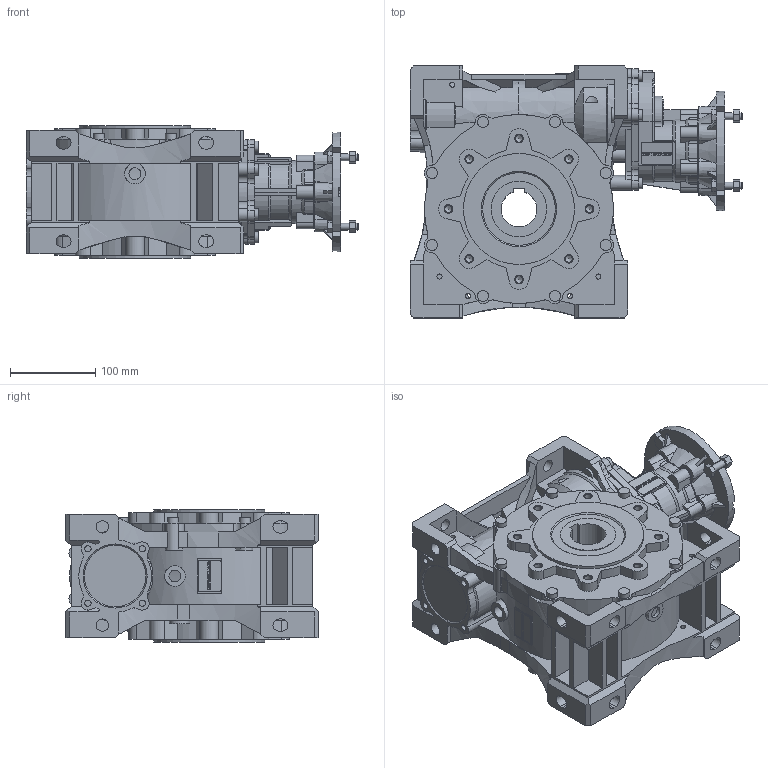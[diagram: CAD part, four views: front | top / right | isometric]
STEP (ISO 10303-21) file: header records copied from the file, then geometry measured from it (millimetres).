
FILE_DESCRIPTION(/* description */ ('STEP AP214'),/* implementation_level */ '2;1');
FILE_NAME(/* name */ 'NMRVP_HW 040-110 186.32 (3.11x60) 140x24 42 NO NO - - NO - - - NO NO - --(--------)',/* time_stamp */ '2024-10-09T12:25:58+02:00',/* author */ ('License CC BY-ND 4.0'),/* organization */ ('CADENAS'),/* preprocessor_version */ 'ST-DEVELOPER v19.3',/* originating_system */ 'PARTsolutions',/* authorisation */ ' ');
FILE_SCHEMA (('AUTOMOTIVE_DESIGN {1 0 10303 214 3 1 1}'));
Length unit declared in the file: millimetre
Products named in the file (8): NMRVP/HW 040-110 186.32 (3.11x60) 140x24 42 NO NO - - NO - - - NO NO 
- --(--------); W.110.01.M; 110-42 (155); W.110.14.19.M-phw; 110-65; HW40; 6390 B14; PC.040.27.24.M
Assembly tree (7 placements, depth 2):
  NMRVP/HW 040-110 186.32 (3.11x60) 140x24 42 NO NO - - NO - - - NO NO 
- --(--------)
    W.110.01.M
    110-42 (155)
    W.110.14.19.M-phw
    110-65
    HW40
    6390 B14
    PC.040.27.24.M
Bounding box: 388.5 x 295 x 155 mm (x, y, z)
Volume: 7966541.4 mm3; surface area: 730139.4 mm2
Topology: 7 solids, 11 shells, 1863 faces, 5053 edges, 3340 vertices
Faces by surface type: plane 979, cylinder 743, cone 134, torus 7
Full cylindrical faces by diameter (mm): 6 x10, 7.45 x12, 8 x8, 8.376 x16, 13 x20, 14 x8, 14.5 x2, 18 x1, 24 x2, 32 x1, 39 x1, 40 x1, 41 x1, 55 x1, 56 x1, 63 x1, 65 x3, 68 x2, 90 x3, 130 x2
Entity records: 71600 total; most frequent: CARTESIAN_POINT 11372, DIRECTION 9962, ORIENTED_EDGE 9730, EDGE_CURVE 4865, AXIS2_PLACEMENT_3D 3599, VERTEX_POINT 3308, LINE 2764, VECTOR 2764
